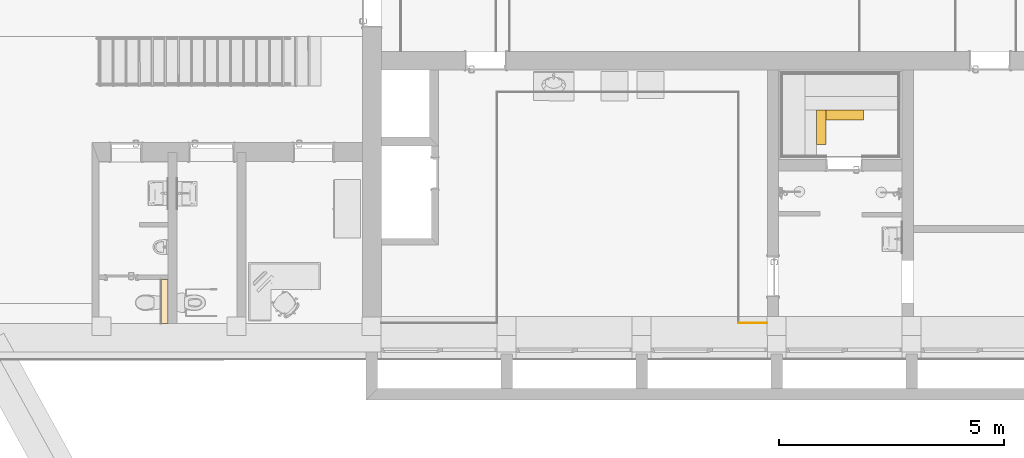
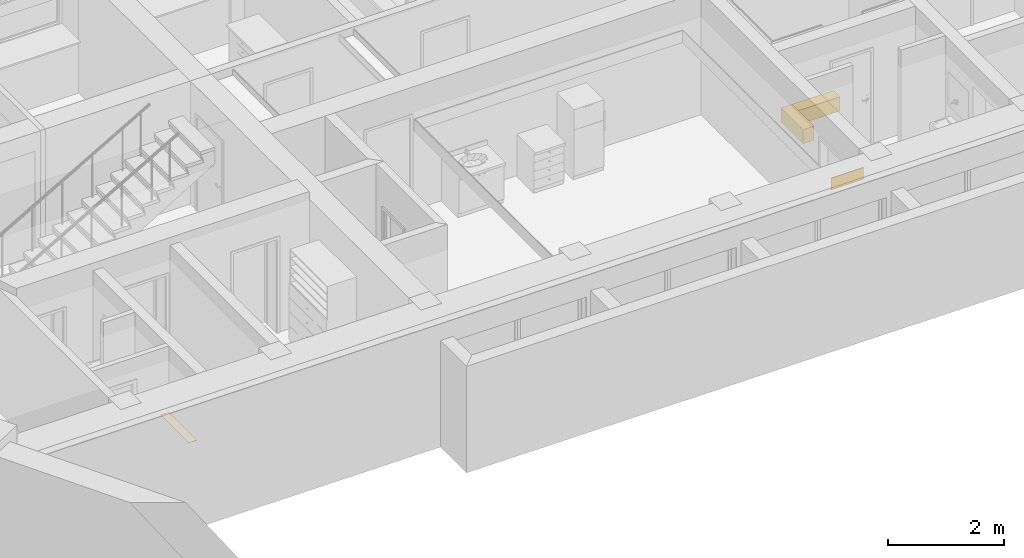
# One storey, part 73 of 127: 4 coverings.
"""IFC2X3 building model written with IfcOpenShell, lengths in millimetres."""

import ifcopenshell
import ifcopenshell.guid

model = None  # the IFC model being written
_history = None  # IfcOwnerHistory: only IFC2X3 demands one
_inside = {}  # id of a spatial element -> (the spatial element, [elements in it])
_under = {}  # id of a project, library or spatial element -> (it, [spatial elements below it])
_declared = {}  # id of a project -> (the project, [libraries it declares])
_typed = {}  # id of a type object -> (the type object, [elements of that type])
_made_of = {}  # id of a material, layer set ... -> (it, [elements and type objects made of it])


def new_model(schema):
    """Start an empty IFC model of exactly this schema.

    Asked for "IFC4X3", IfcOpenShell would pick the latest addendum, in which some entities
    have other attributes; the version numbers below select the first issue.
    IFC2X3 requires an IfcOwnerHistory on every rooted entity: one is made here for all.
    """
    global model, _history
    if schema == "IFC4X3":
        model = ifcopenshell.file(schema_version=(4, 3, 0, 0))
    else:
        model = ifcopenshell.file(schema=schema)
    _inside.clear()
    _under.clear()
    _declared.clear()
    _typed.clear()
    _made_of.clear()
    _history = None
    if model.schema == "IFC2X3":
        org = make("IfcOrganization", Name="unknown")
        user = make(
            "IfcPersonAndOrganization",
            ThePerson=make("IfcPerson", FamilyName="unknown"),
            TheOrganization=org,
        )
        app = make(
            "IfcApplication",
            ApplicationDeveloper=org,
            Version="unknown",
            ApplicationFullName="unknown",
            ApplicationIdentifier="unknown",
        )
        _history = make(
            "IfcOwnerHistory",
            OwningUser=user,
            OwningApplication=app,
            ChangeAction="ADDED",
            CreationDate=0,
        )
    return model


def make(cls, **values):
    """One entity of the class cls with the attributes given. An attribute that is None is left unset."""
    return model.create_entity(
        cls, **{name: value for name, value in values.items() if value is not None}
    )


def entity(cls, *values):
    """Any entity or typed value of the class cls, its attributes in the order of the schema. None: left unset."""
    e = model.create_entity(cls)
    for i, value in enumerate(values):
        if value is not None:
            e[i] = value
    return e


def rooted(cls, **values):
    """An entity with a GlobalId (a new one), such as an element, a storey or a relation."""
    return make(cls, GlobalId=ifcopenshell.guid.new(), OwnerHistory=_history, **values)


def si_unit(unit_type, name, prefix=None):
    """IfcSIUnit, for example si_unit("LENGTHUNIT", "METRE", prefix="MILLI")."""
    return make("IfcSIUnit", UnitType=unit_type, Prefix=prefix, Name=name)


def converted_unit(unit_type, name, factor, base, dimensions=None, offset=None):
    """IfcConversionBasedUnit, such as the inch: factor (a typed value) times the base unit."""
    return make(
        "IfcConversionBasedUnit"
        if offset is None
        else "IfcConversionBasedUnitWithOffset",
        ConversionOffset=offset,
        Dimensions=None
        if dimensions is None
        else entity("IfcDimensionalExponents", *dimensions),
        UnitType=unit_type,
        Name=name,
        ConversionFactor=make(
            "IfcMeasureWithUnit", ValueComponent=factor, UnitComponent=base
        ),
    )


def derived_unit(unit_type, elements):
    """IfcDerivedUnit: a product of units, each with its exponent."""
    return make(
        "IfcDerivedUnit",
        Elements=[
            make("IfcDerivedUnitElement", Unit=unit, Exponent=power)
            for unit, power in elements
        ],
        UnitType=unit_type,
    )


def money_unit(currency):
    """IfcMonetaryUnit."""
    return make("IfcMonetaryUnit", Currency=currency)


def assignment(units):
    """IfcUnitAssignment: the units of a project."""
    return None if units is None else make("IfcUnitAssignment", Units=units)


def point(xyz):
    """IfcCartesianPoint."""
    return None if xyz is None else make("IfcCartesianPoint", Coordinates=xyz)


def direction(xyz):
    """IfcDirection."""
    return None if xyz is None else make("IfcDirection", DirectionRatios=xyz)


def frame(location, z_axis=None, x_axis=None):
    """IfcAxis2Placement3D, a coordinate frame: its origin and axes. An axis left out is left unset."""
    return make(
        "IfcAxis2Placement3D",
        Location=point(location),
        Axis=direction(z_axis),
        RefDirection=direction(x_axis),
    )


def origin_with_axes():
    """The frame at (0, 0, 0) with the z axis (0, 0, 1) and the x axis (1, 0, 0) written out."""
    return frame((0.0, 0.0, 0.0), z_axis=(0.0, 0.0, 1.0), x_axis=(1.0, 0.0, 0.0))


def place(relative_to, where):
    """IfcLocalPlacement: puts the frame where relative to a parent placement (None: the world)."""
    return make(
        "IfcLocalPlacement", PlacementRelTo=relative_to, RelativePlacement=where
    )


def context(
    kind, dimensions, precision=None, world=None, true_north=None, identifier=None
):
    """IfcGeometricRepresentationContext, for example the 3D "Model" context."""
    return make(
        "IfcGeometricRepresentationContext",
        ContextIdentifier=identifier,
        ContextType=kind,
        CoordinateSpaceDimension=dimensions,
        Precision=precision,
        WorldCoordinateSystem=world,
        TrueNorth=true_north,
    )


def subcontext(parent, identifier, kind, view, scale=None):
    """IfcGeometricRepresentationSubContext, for example "Body" below "Model"."""
    return make(
        "IfcGeometricRepresentationSubContext",
        ContextIdentifier=identifier,
        ContextType=kind,
        ParentContext=parent,
        TargetScale=scale,
        TargetView=view,
    )


def project(units=None, contexts=None):
    """IfcProject with its units and contexts."""
    return rooted(
        "IfcProject",
        Name="project",
        RepresentationContexts=contexts,
        UnitsInContext=assignment(units),
    )


def spatial(cls, under=None, at=None, **own):
    """A site, building, storey or space (cls), placed at a placement, below another one or the project."""
    s = rooted(cls, ObjectPlacement=at, **own)
    if under is not None:
        _under.setdefault(under.id(), (under, []))[1].append(s)
    return s


def polyline(points):
    """IfcPolyline through the points."""
    return make("IfcPolyline", Points=[point(p) for p in points])


def outline(outer, holes=None, kind="AREA"):
    """IfcArbitraryClosedProfileDef: a profile drawn as a closed curve; with holes, ...WithVoids."""
    if holes is None:
        return make("IfcArbitraryClosedProfileDef", ProfileType=kind, OuterCurve=outer)
    return make(
        "IfcArbitraryProfileDefWithVoids",
        ProfileType=kind,
        OuterCurve=outer,
        InnerCurves=holes,
    )


def extrude(swept, where, along, depth):
    """IfcExtrudedAreaSolid: the profile swept, set in the frame where, extruded along a direction by depth."""
    return make(
        "IfcExtrudedAreaSolid",
        SweptArea=swept,
        Position=where,
        ExtrudedDirection=direction(along),
        Depth=depth,
    )


def shape(context_of_items, identifier, shape_type, items):
    """IfcShapeRepresentation: the items that make up one representation, for example the "Body"."""
    return make(
        "IfcShapeRepresentation",
        ContextOfItems=context_of_items,
        RepresentationIdentifier=identifier,
        RepresentationType=shape_type,
        Items=items,
    )


def material(Name=None, Category=None):
    """IfcMaterial."""
    return make("IfcMaterial", Name=Name, Category=Category)


def made_of(thing, what):
    """Note that an element or type object is made of a material, layer set ...; save() writes the relation."""
    if what is not None:
        _made_of.setdefault(what.id(), (what, []))[1].append(thing)
    return thing


def type_object(cls, material=None, **own):
    """A type object (cls), such as IfcWallType, which elements share."""
    return made_of(rooted(cls, **own), material)


def element(
    cls,
    number,
    at=None,
    inside=None,
    cuts=None,
    type_object=None,
    material=None,
    context=None,
    identifier="Body",
    shape_type=None,
    held_by="IfcProductDefinitionShape",
    body=None,
    shapes=None,
    **own,
):
    """One element of the class cls, such as IfcWall. Its Tag is "e" and its number.

    at: its placement. inside: the storey or other place that contains it. cuts: it is an
    opening in that element (IfcRelVoidsElement). A single representation is given by context,
    identifier, shape_type and body (its items); several are given by shapes. held_by: the class
    of the entity that holds the representations. save() writes the other relations.
    """
    e = rooted(cls, Tag="e%d" % number, ObjectPlacement=at, **own)
    if body is not None:
        shapes = [shape(context, identifier, shape_type, body)]
    if shapes is not None:
        e.Representation = make(held_by, Representations=shapes)
    if inside is not None:
        _inside.setdefault(inside.id(), (inside, []))[1].append(e)
    if cuts is not None:
        rooted(
            "IfcRelVoidsElement", RelatingBuildingElement=cuts, RelatedOpeningElement=e
        )
    if type_object is not None:
        _typed.setdefault(type_object.id(), (type_object, []))[1].append(e)
    return made_of(e, material)


def aggregate(whole, parts):
    """IfcRelAggregates: a whole, such as a stair, and the parts it consists of."""
    return rooted("IfcRelAggregates", RelatingObject=whole, RelatedObjects=parts)


def save(model, path):
    """Write the relations noted so far, then the file.

    IfcRelAggregates (storeys below a building ...), IfcRelContainedInSpatialStructure (elements
    in a storey), IfcRelDefinesByType, IfcRelAssociatesMaterial and IfcRelDeclares: one each for
    every whole, place, type object, material and project.
    """
    for whole, parts in _under.values():
        aggregate(whole, parts)
    for where, things in _inside.values():
        rooted(
            "IfcRelContainedInSpatialStructure",
            RelatedElements=things,
            RelatingStructure=where,
        )
    for kind, things in _typed.values():
        rooted("IfcRelDefinesByType", RelatedObjects=things, RelatingType=kind)
    for what, things in _made_of.values():
        rooted("IfcRelAssociatesMaterial", RelatedObjects=things, RelatingMaterial=what)
    for by, libraries in _declared.values():
        rooted("IfcRelDeclares", RelatingContext=by, RelatedDefinitions=libraries)
    model.write(path)


model = new_model("IFC2X3")

# Units and contexts
model_context = context("Model", 3, precision=1e-05, world=origin_with_axes(), true_north=direction((0.0, 1.0)))
body_context = subcontext(model_context, "Body", "Model", "MODEL_VIEW")
ifc_project = project(units=[si_unit("LENGTHUNIT", "METRE", prefix="MILLI"), si_unit("AREAUNIT", "SQUARE_METRE"), si_unit("VOLUMEUNIT", "CUBIC_METRE"), converted_unit("PLANEANGLEUNIT", "DEGREE", entity("IfcPlaneAngleMeasure", 0.0174532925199), si_unit("PLANEANGLEUNIT", "RADIAN"), dimensions=[0, 0, 0, 0, 0, 0, 0]), si_unit("SOLIDANGLEUNIT", "STERADIAN"), money_unit("EUR"), converted_unit("TIMEUNIT", "Year", entity("IfcTimeMeasure", 31556926.0), si_unit("TIMEUNIT", "SECOND"), dimensions=[0, 0, 1, 0, 0, 0, 0]), si_unit("MASSUNIT", "GRAM", prefix="KILO"), si_unit("THERMODYNAMICTEMPERATUREUNIT", "DEGREE_CELSIUS"), si_unit("LUMINOUSINTENSITYUNIT", "LUMEN"), si_unit("ENERGYUNIT", "JOULE", prefix="MEGA"), derived_unit("THERMALCONDUCTANCEUNIT", [(si_unit("POWERUNIT", "WATT"), 1), (si_unit("LENGTHUNIT", "METRE"), -1), (si_unit("THERMODYNAMICTEMPERATUREUNIT", "KELVIN"), -1)]), derived_unit("SPECIFICHEATCAPACITYUNIT", [(si_unit("ENERGYUNIT", "JOULE"), 1), (si_unit("MASSUNIT", "GRAM", prefix="KILO"), -1), (si_unit("THERMODYNAMICTEMPERATUREUNIT", "KELVIN"), -1)]), derived_unit("MASSDENSITYUNIT", [(si_unit("MASSUNIT", "GRAM", prefix="KILO"), 1), (si_unit("VOLUMEUNIT", "CUBIC_METRE"), -1)])], contexts=[model_context])

# Site, building, storey
site_placement = place(None, origin_with_axes())
site = spatial("IfcSite", under=ifc_project, at=site_placement, Name="Site", CompositionType="ELEMENT")
building_placement = place(site_placement, origin_with_axes())
building = spatial("IfcBuilding", under=site, at=building_placement, Name="Building", CompositionType="ELEMENT")
storey_placement = place(building_placement, origin_with_axes())
storey = spatial("IfcBuildingStorey", under=building, at=storey_placement, Name="1 KORRUS", CompositionType="ELEMENT", Elevation=0.0)

# Coverings
ifc_material_1 = material(Name="Puit - Konstruktsioon (1)")
covering_type_1 = type_object("IfcCoveringType", Name="P-3", PredefinedType="NOTDEFINED")
covering_1_placement = place(storey_placement, frame((25827.9518775, 63567.8824025, 0.0), z_axis=(0.0, 0.0, 1.0), x_axis=(1.0, 0.0, 0.0)))
element("IfcCovering", 1, at=covering_1_placement, inside=storey, type_object=covering_type_1, material=ifc_material_1, Name="Puit - Konstruktsioon (1)", PredefinedType="NOTDEFINED", context=body_context, shape_type="SweptSolid", body=[
    extrude(outline(polyline([(0.0, 0.0), (219.794369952, 0.0), (219.794369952, 761.486654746), (0.0, 761.486654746), (0.0, 0.0)])), origin_with_axes(), (0.0, 0.0, 1.0), 300.0),
])
covering_type_2 = type_object("IfcCoveringType", Name="P-4", PredefinedType="NOTDEFINED")
covering_2_placement = place(storey_placement, frame((26047.7462475, 64109.630469, 0.0), z_axis=(0.0, 0.0, 1.0), x_axis=(1.0, 0.0, 0.0)))
element("IfcCovering", 2, at=covering_2_placement, inside=storey, type_object=covering_type_2, material=ifc_material_1, Name="Puit - Konstruktsioon (1)", PredefinedType="NOTDEFINED", context=body_context, shape_type="SweptSolid", body=[
    extrude(outline(polyline([(0.0, 0.0), (826.822615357, 0.0), (826.822615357, 219.738588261), (0.0, 219.738588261), (0.0, 0.0)])), origin_with_axes(), (0.0, 0.0, 1.0), 300.0),
])
ifc_material_2 = material(Name="Kipsplaat")
covering_type_3 = type_object("IfcCoveringType", Name="Kips", PredefinedType="CEILING")
covering_3_placement = place(storey_placement, frame((24089.0849829, 59587.5462613, 2050.0), z_axis=(0.0, 0.0, 1.0), x_axis=(1.0, 0.0, 0.0)))
element("IfcCovering", 3, at=covering_3_placement, inside=storey, type_object=covering_type_3, material=ifc_material_2, Name="Kipsplaat", PredefinedType="CEILING", context=body_context, shape_type="SweptSolid", body=[
    extrude(outline(polyline([(0.0, 0.0), (645.217614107, 0.0), (645.217614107, 12.9999999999), (12.998517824, 12.9999999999), (0.0, 0.0)])), origin_with_axes(), (0.0, 0.0, 1.0), 250.0),
])
ifc_material_3 = material(Name="Betoon - Ol.Olev konstruktsioon")
covering_type_4 = type_object("IfcCoveringType", Name="loputuskasti raam", PredefinedType="NOTDEFINED")
covering_4_placement = place(storey_placement, frame((11253.6560805, 60562.1410989, 1200.0), z_axis=(0.0, 0.0, 1.0), x_axis=(1.0, 0.0, 0.0)))
element("IfcCovering", 4, at=covering_4_placement, inside=storey, type_object=covering_type_4, material=ifc_material_3, Name="Betoon - Ol.Olev konstruktsioon", PredefinedType="NOTDEFINED", context=body_context, shape_type="SweptSolid", body=[
    extrude(outline(polyline([(0.0, 0.0), (0.0, -976.072719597), (163.0, -976.072719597), (163.0, 0.0), (0.0, 0.0)])), frame((0.0, 0.0, -2.0), z_axis=(0.0, 0.0, 1.0), x_axis=(1.0, 0.0, 0.0)), (0.0, 0.0, 1.0), 2.0),
])

save(model, "model.ifc")
